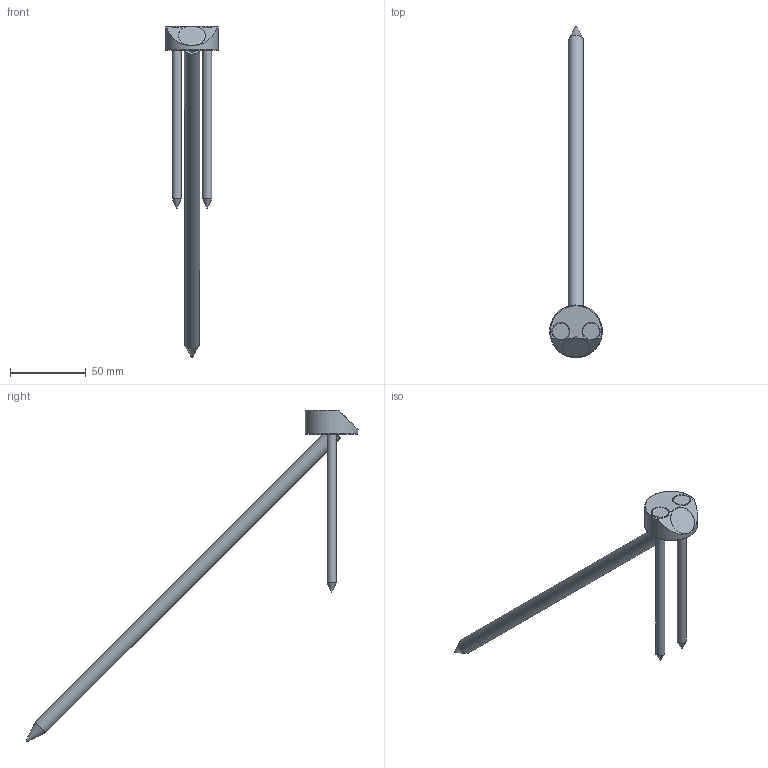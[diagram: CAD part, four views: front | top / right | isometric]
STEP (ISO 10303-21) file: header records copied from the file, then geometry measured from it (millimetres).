
FILE_DESCRIPTION(/* description */ ('Unknown'),/* implementation_level */ '2;1');
FILE_NAME(/* name */ 'T-JOINT_D35_W45_2xSK 6x120_1xSK 10x300',/* time_stamp */ '2022-02-03T13:17:21+01:00',/* author */ ('Unknown'),/* organization */ ('Unknown'),/* preprocessor_version */ 'ST-DEVELOPER v16.7',/* originating_system */ 'Solid Edge',/* authorisation */ 'Unknown');
FILE_SCHEMA (('AUTOMOTIVE_DESIGN {1 0 10303 214 3 1 1}'));
Length unit declared in the file: millimetre
Products named in the file (4): T-Joint_D35_W45_SK-10x300_2xSK-6x120; T-Joint_D35_W45; SK Schraube 6x120_ohne_Gewinde; SK Schraube 10x300_ohne_Gewinde_22042020
Assembly tree (4 placements, depth 2):
  T-Joint_D35_W45_SK-10x300_2xSK-6x120
    T-Joint_D35_W45
    SK Schraube 6x120_ohne_Gewinde  x2
    SK Schraube 10x300_ohne_Gewinde_22042020
Bounding box: 34.78 x 219.11 x 218.85 mm (x, y, z)
Volume: 40507.6 mm3; surface area: 18437.9 mm2
Topology: 4 solids, 4 shells, 35 faces, 73 edges, 45 vertices
Faces by surface type: cylinder 12, plane 11, cone 9, torus 3
Full cylindrical faces by diameter (mm): 6 x2, 6.2 x2, 6.3 x1, 10 x2, 11 x2, 12.5 x1, 18 x1, 34.8 x1
Entity records: 771 total; most frequent: DIRECTION 130, CARTESIAN_POINT 126, ORIENTED_EDGE 76, AXIS2_PLACEMENT_3D 63, EDGE_LOOP 53, FACE_BOUND 53, EDGE_CURVE 38, VERTEX_POINT 33
